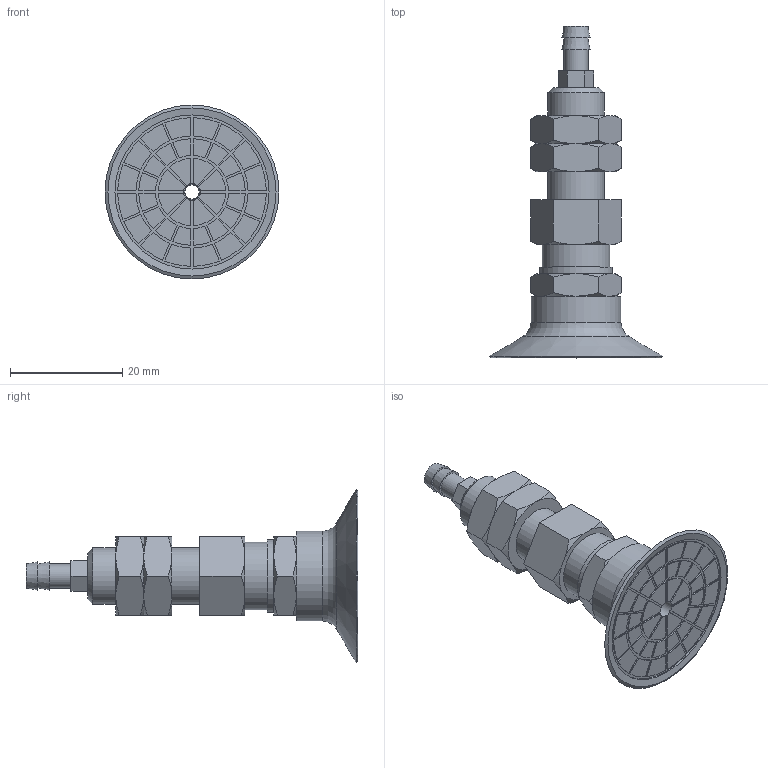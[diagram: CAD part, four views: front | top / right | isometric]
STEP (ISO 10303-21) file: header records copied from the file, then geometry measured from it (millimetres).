
FILE_DESCRIPTION(('STEP AP203'),'1');
FILE_NAME('.stp','2024-07-08T07:23:41',(' '),(' '),'Spatial InterOp 3D',' ',' ');
FILE_SCHEMA(('CONFIG_CONTROL_DESIGN'));
Length unit declared in the file: millimetre
Products named in the file (6): BBPATK-30B-※; Nut-25-; TN-PA-30B-M6; PATK-30B; PATK-30B(2); BPAG-30B-※_3D
Assembly tree (6 placements, depth 2):
  BBPATK-30B-※
    Nut-25-  x2
    TN-PA-30B-M6
    PATK-30B
    PATK-30B(2)
    BPAG-30B-※_3D
Bounding box: 31.04 x 59.2 x 31.04 mm (x, y, z)
Volume: 8189.3 mm3; surface area: 6759.3 mm2
Topology: 6 solids, 6 shells, 340 faces, 794 edges, 510 vertices
Faces by surface type: plane 186, cylinder 91, cone 57, torus 6
Full cylindrical faces by diameter (mm): 2.5 x1, 3 x3, 4.134 x1, 4.3 x1, 4.917 x1, 6 x3, 8.376 x2, 10 x3, 12 x1, 13 x1, 16 x1, 27.5 x1
Entity records: 9444 total; most frequent: CARTESIAN_POINT 1908, DIRECTION 1538, ORIENTED_EDGE 1402, EDGE_CURVE 701, AXIS2_PLACEMENT_3D 573, VERTEX_POINT 475, EDGE_LOOP 408, LINE 392
